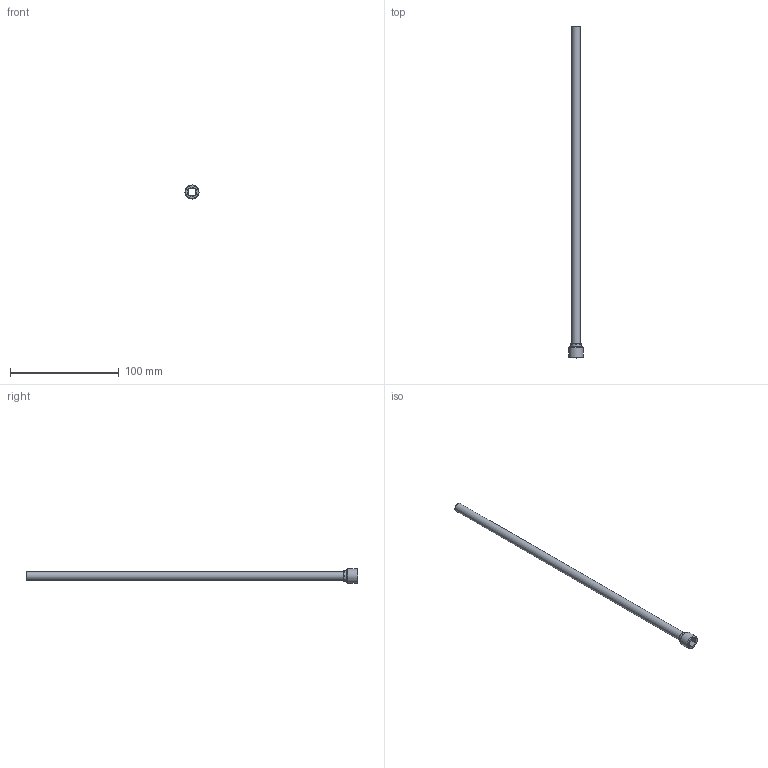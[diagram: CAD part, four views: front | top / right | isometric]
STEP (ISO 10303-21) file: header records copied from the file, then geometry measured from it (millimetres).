
FILE_DESCRIPTION(/* description */ (''),/* implementation_level */ '2;1');
FILE_NAME(/* name */ 'C:/Users/drich/Desktop/PT14-312-12 v1.step',/* time_stamp */ '2019-12-27T15:10:19-06:00',/* author */ (''),/* organization */ (''),/* preprocessor_version */ 'ST-DEVELOPER v18',/* originating_system */ 'Autodesk Translation Framework v8.12.0.6',/* authorisation */ '');
FILE_SCHEMA (('AUTOMOTIVE_DESIGN { 1 0 10303 214 3 1 1 }'));
Length unit declared in the file: inch
Products named in the file (1): PT14-312-12
Bounding box: 13.03 x 304.8 x 13.03 mm (x, y, z)
Volume: 3036 mm3; surface area: 14945.6 mm2
Topology: 1 solids, 1 shells, 19 faces, 48 edges, 34 vertices
Faces by surface type: plane 11, cylinder 4, torus 2, cone 2
Full cylindrical faces by diameter (mm): 7.315 x1, 7.925 x1, 9.906 x1, 13.032 x1
Entity records: 633 total; most frequent: DIRECTION 112, CARTESIAN_POINT 102, ORIENTED_EDGE 96, EDGE_CURVE 48, AXIS2_PLACEMENT_3D 44, VERTEX_POINT 34, CIRCLE 24, EDGE_LOOP 24
